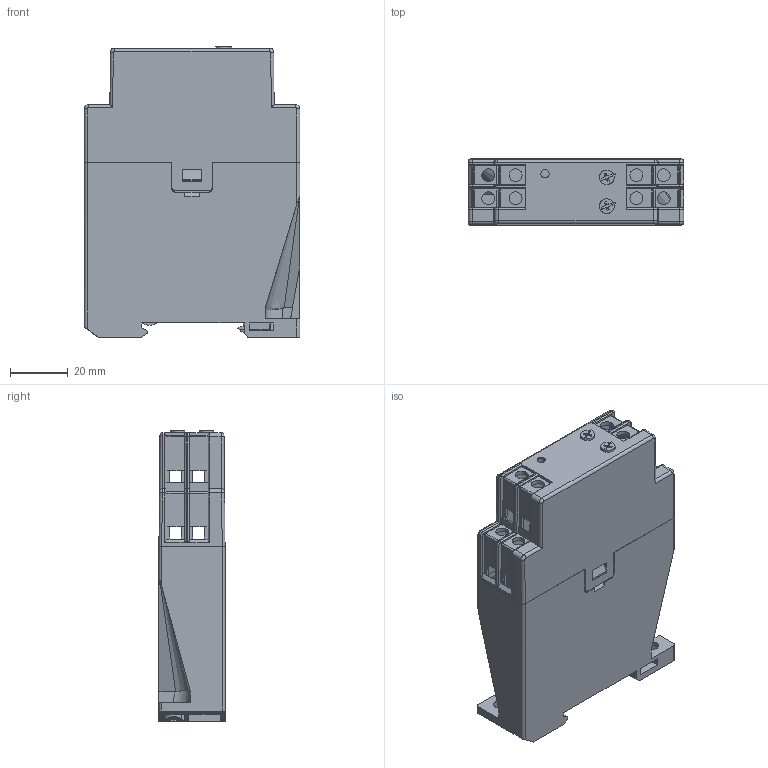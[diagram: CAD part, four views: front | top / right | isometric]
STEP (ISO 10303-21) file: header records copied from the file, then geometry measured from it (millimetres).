
FILE_DESCRIPTION( ( 'Unknown' ), '1' );
FILE_NAME( 'Z:/GIC/Marketing requirement/3D drawing to Altech - SGA/GIC225/8 TERMINAL 225 TIMER.stp', 'Unknown', ( 'Unknown' ), ( 'Unknown' ), 'PSStep 17.0.49', 'Unknown', ' ' );
FILE_SCHEMA( ( 'AUTOMOTIVE_DESIGN { 1 0 10303 214 1 1 1 1 }' ) );
Length unit declared in the file: millimetre
Products named in the file (7): 2F1011_2F1019_REV_06_CASING; 2F1009_BASE_REV_02; PF1100_REV_2_DINRAIL_CLIP; AA1109_AA1110_AA1113_AA1125_AA1132_REV_05_KNOB2.0 HEX 12.2
Bounding box: 75 x 23.21 x 101.1 mm (x, y, z)
Volume: 93069.6 mm3; surface area: 54557.9 mm2
Topology: 7 solids, 7 shells, 838 faces, 2366 edges, 1525 vertices
Faces by surface type: plane 601, cylinder 191, torus 16, bspline 15, cone 13, sphere 2
Full cylindrical faces by diameter (mm): 0.1 x1, 1.27 x1, 2.5 x1, 2.9 x1, 3.2 x1, 4.5 x10, 5 x2, 5.1 x2
Entity records: 34187 total; most frequent: CARTESIAN_POINT 5616, ORIENTED_EDGE 4658, DIRECTION 4391, EDGE_CURVE 2329, LINE 1799, VECTOR 1799, VERTEX_POINT 1510, AXIS2_PLACEMENT_3D 1296
